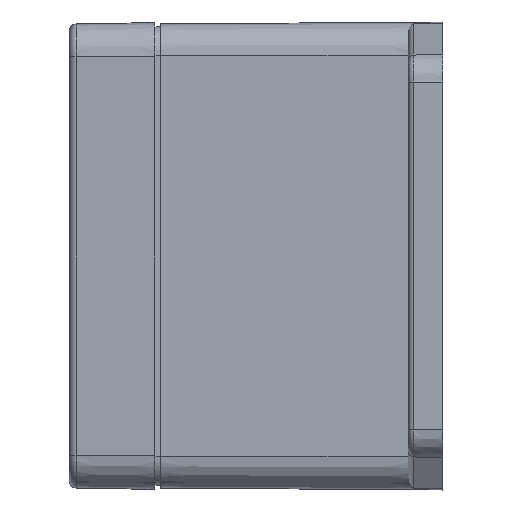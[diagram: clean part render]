
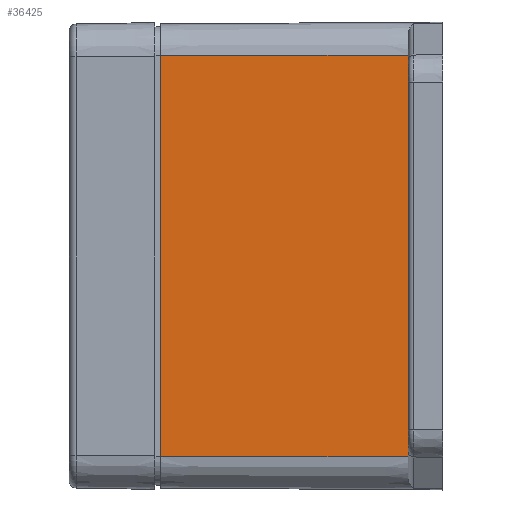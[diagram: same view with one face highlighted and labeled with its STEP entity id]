
A CAD part, left-side view. The second image highlights one B-rep face of the part: STEP entity #36425.
In plain terms, the highlighted planar face has unit normal (-1, 0.007, 0).
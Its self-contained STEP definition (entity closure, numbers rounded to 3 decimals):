
#1453 = DIRECTION ( 'NONE',  ( -0.007, -1., 0. ) ) ;
#2483 = CARTESIAN_POINT ( 'NONE',  ( -40.161, -44.6, 35.35 ) ) ;
#5431 = EDGE_CURVE ( 'NONE', #25452, #38772, #11389, .T. ) ;
#8798 = ORIENTED_EDGE ( 'NONE', *, *, #21504, .T. ) ;
#8856 = CARTESIAN_POINT ( 'NONE',  ( -39.857, -1., 35.35 ) ) ;
#9067 = VECTOR ( 'NONE', #20565, 1000. ) ;
#9179 = VERTEX_POINT ( 'NONE', #2483 ) ;
#9812 = CARTESIAN_POINT ( 'NONE',  ( -40.161, -44.6, 35.35 ) ) ;
#10652 = CARTESIAN_POINT ( 'NONE',  ( -40.161, -44.6, -35.35 ) ) ;
#11389 = LINE ( 'NONE', #35665, #9067 ) ;
#12838 = PLANE ( 'NONE',  #31268 ) ;
#14391 = CARTESIAN_POINT ( 'NONE',  ( -39.857, -1., 35.35 ) ) ;
#14841 = CARTESIAN_POINT ( 'NONE',  ( -39.85, 0., 35.35 ) ) ;
#14972 = LINE ( 'NONE', #9812, #25905 ) ;
#15914 = CARTESIAN_POINT ( 'NONE',  ( -39.857, -1., -35.35 ) ) ;
#15967 = CARTESIAN_POINT ( 'NONE',  ( -39.85, 0., 35.35 ) ) ;
#18038 = EDGE_LOOP ( 'NONE', ( #31437, #8798, #26549, #36128 ) ) ;
#19313 = EDGE_CURVE ( 'NONE', #9179, #25452, #14972, .T. ) ;
#20565 = DIRECTION ( 'NONE',  ( 0.007, 1., 0. ) ) ;
#21251 = VECTOR ( 'NONE', #29337, 1000. ) ;
#21504 = EDGE_CURVE ( 'NONE', #36486, #38772, #29458, .T. ) ;
#22025 = VECTOR ( 'NONE', #29075, 1000. ) ;
#23937 = DIRECTION ( 'NONE',  ( 0., 0., -1. ) ) ;
#25143 = FACE_OUTER_BOUND ( 'NONE', #18038, .T. ) ;
#25452 = VERTEX_POINT ( 'NONE', #10652 ) ;
#25905 = VECTOR ( 'NONE', #23937, 1000. ) ;
#26549 = ORIENTED_EDGE ( 'NONE', *, *, #5431, .F. ) ;
#27525 = DIRECTION ( 'NONE',  ( -1., 0.007, 0. ) ) ;
#29075 = DIRECTION ( 'NONE',  ( 0., 0., -1. ) ) ;
#29337 = DIRECTION ( 'NONE',  ( 0.007, 1., 0. ) ) ;
#29458 = LINE ( 'NONE', #14391, #22025 ) ;
#31268 = AXIS2_PLACEMENT_3D ( 'NONE', #15967, #27525, #1453 ) ;
#31437 = ORIENTED_EDGE ( 'NONE', *, *, #36800, .T. ) ;
#35665 = CARTESIAN_POINT ( 'NONE',  ( -39.85, 0., -35.35 ) ) ;
#36128 = ORIENTED_EDGE ( 'NONE', *, *, #19313, .F. ) ;
#36425 = ADVANCED_FACE ( 'NONE', ( #25143 ), #12838, .T. ) ;
#36486 = VERTEX_POINT ( 'NONE', #8856 ) ;
#36800 = EDGE_CURVE ( 'NONE', #9179, #36486, #38522, .T. ) ;
#38522 = LINE ( 'NONE', #14841, #21251 ) ;
#38772 = VERTEX_POINT ( 'NONE', #15914 ) ;
